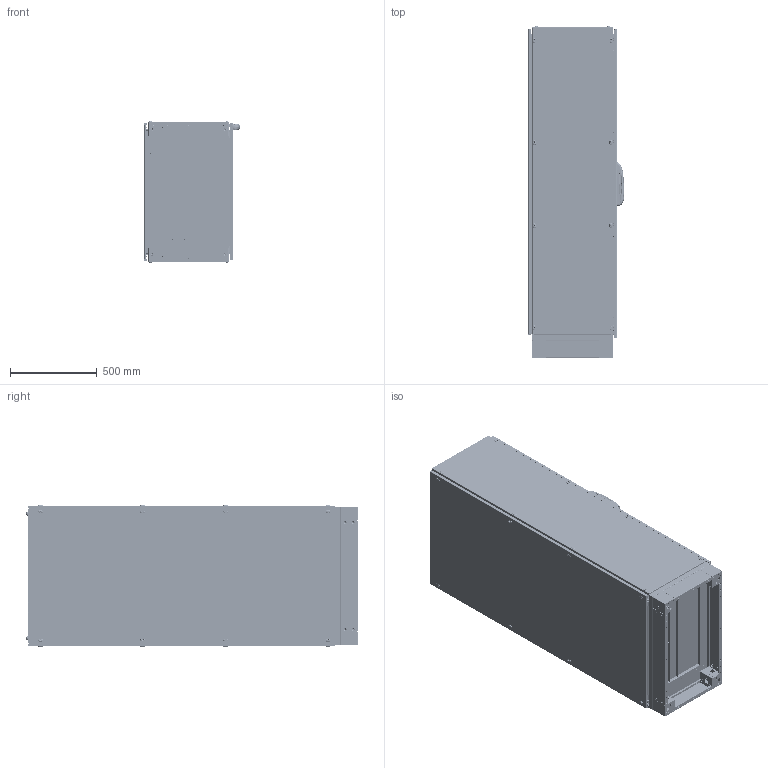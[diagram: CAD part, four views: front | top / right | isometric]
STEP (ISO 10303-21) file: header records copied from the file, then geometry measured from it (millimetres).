
FILE_DESCRIPTION (( 'STEP AP203' ), '1' );
FILE_NAME ('708.185 800x1800x500.STEP', '2020-04-06T15:51:58', ( '' ), ( '' ), 'SwSTEP 2.0', 'SolidWorks 2019', '' );
FILE_SCHEMA (( 'CONFIG_CONTROL_DESIGN' ));
Length unit declared in the file: millimetre
Products named in the file (124): M6 KAFES SOMU2015; M6 HAVÞA PLASTÝK CÝVATA; Montaj PlakAsi aaaaa 3mm_PP 12.0102 800x1800; yan Kapak 09-2014 800 der ust tek hv r3_PP 12.0064 - 1800X500; V2 -2011 DT BAZA KAPAGI ON_PP 12.0046 - 800; 03-taban genislik percinli 04 - 2012 100-120_PP 12.0020 - 800; mp aLT DAYAMA_PP 12.0092 - 500; M8 KAFES SOMUN_m8; pan cross head_am1_B18.6.7M - M5 x 0.8 x 10 Type I Cross Recessed PHMS --10N; MP 18.7631 Tekpan ASSEMBLY 27092017_mekanizmasiz; M8 Somun Kafesi_m8; PB 14.0004 M6 HAVÞA PLASTÝK CÝVATA; TEOS Yeni Kapak Montaj version 2_1800; TEOS-NEO MP Sol Dayama; BOYUNA DELIKLI PROFIL_1800; 708.185 800x1800x500; 03-TABAN SACI U1 04-2012_PP 12.0041 -800-75; BAZA KÖÞES_SOL; Teos-Neo MP Sað Braket Montaj_Standart Pozisyon; yan arka kapak baglantý saci; MP 18.7631 Arka Kapak; flat head screw_am_B18.6.7M - M6 x 1.0 x 20 Type I Cross Recessed FHMS --20N; arka kapi 1,5 mm gecme askili 09-2014 R3_PP 12.0081 800x1800; Teos-Neo MP Durdurucu; kapali dikey profilkenetli_ita oluklu10-aaaaaaaaaaaa-1_800; mentese orta 09-201; Mirror03-KOSE PUNT; BAZA KÖÞES_SAG; TEOS TEK KAPAK REVÝZE_800x1800; on citaVER3 teos26-12_800; TEOS Kilit Çubuk Pimi; ENINE DELIKLI PROFIL_800; TEOS Kilit Üst Çubuk_1800--MP 16.0130; TEOS REAR PANEL_ 703.818 800X1800; V2 BAZA KOSESI2015_100; TEOS V2 BAZA S嵞TEM廆800X500; Teos-Neo MP Sol Braketi; kapali dikey profilkenetli_ita oluklu10-aaaaaaaaaaaa-1_1800; MP 18.7631 yddk_tozkapagi; MP 11.0195 montaj plakasý m8takoz1VER3 NEO26-12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
Assembly tree (384 placements, depth 7):
  708.185 800x1800x500
    TEOS iskelet_800x1800x500
      kapali dikey profilkenetli_ita oluklu10-aaaaaaaaaaaa-1_1800  x4
      kapali dikey profilkenetli_ita oluklu10-aaaaaaaaaaaa-1_500  x4
      kapali dikey profilkenetli_ita oluklu10-aaaaaaaaaaaa-1_800  x4
      L KOSE DESTEKorj1  x8
      kose rondela kabartmaSIZ 10  x15
      kose rondela kabartmaSIZ 12
      MP 11.0140 TEOS ALUMINYUM KOSE APPROVED 16.08.2010  x8
      M5 DÝKEY PROFÝL RONDELA  x16
      percinli taban-vidalý kapak-kose pls yok_701.850-80X50 ALT
        03-taban genislik percinli 04 - 2012 100-120_PP 12.0020 - 800  x2
        03taban derinlik percinli_PP 12.0024 - 500  x2
        03-KOSE PUNT_PP 12.0027
        03-KOSE PUNT
        Mirror03-KOSE PUNT  x2
        TEOS V2 BAZA S嵞TEM廆800X500
          BAZA KÖÞES_SAG
            V2 BAZA KOSESI2015_100
            BAZA SISTEMIV2-6 baza kapaðý201550x40_TEKPAN LOGOLU
            M6 KAFES SOMU2015
              kafes somun kafes
              somu
            M6 KAFES SOMU2015
              kafes somun kafes
              somu
          V2 -2011 DT BAZA KAPAGI ON_PP 12.0046 - 800  x2
          BAZA KÖÞES_SOL
            V2 BAZA KOSESI2015_100
            BAZA SISTEMIV2-6 baza kapaðý201550x40
            M6 KAFES SOMU2015
              kafes somun kafes
              somu
            M6 KAFES SOMU2015
              kafes somun kafes
              somu
          BAZA KÖÞES_SAG
            V2 BAZA KOSESI2015_100
            BAZA SISTEMIV2-6 baza kapaðý201550x40_TEKPAN LOGOLU
            M6 KAFES SOMU2015
              kafes somun kafes
              somu
            M6 KAFES SOMU2015
              kafes somun kafes
              somu
          BAZA KÖÞES_SOL
            V2 BAZA KOSESI2015_100
            BAZA SISTEMIV2-6 baza kapaðý201550x40
            M6 KAFES SOMU2015
              kafes somun kafes
              somu
            M6 KAFES SOMU2015
              kafes somun kafes
              somu
          V3 -2011 DT BAZA KAPAGI yan_PP 12.0050 - 500  x2
          flat head screw_am_B18.6.7M - M6 x 1.0 x 20 Type I Cross Recessed FHMS --20N  x8
        03-TABAN SACI SURGU_PP 12.0031 - 800
        03-TABAN SACI U1 04-2012_PP 12.0041 -800-75
        03-TABAN SACI U1 04-2012_PP 12.0036 -800-200
        mp aLT DAYAMA_PP 12.0092 - 500  x2
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Bounding box: 558.08 x 1917.1 x 818.87 mm (x, y, z)
Volume: 20550117.5 mm3; surface area: 21430249.2 mm2
Topology: 331 solids, 371 shells, 50366 faces, 136878 edges, 86950 vertices
Faces by surface type: plane 32003, cylinder 13444, bspline 2211, torus 1139, cone 960, sphere 609
Entity records: 701516 total; most frequent: CARTESIAN_POINT 294284, ORIENTED_EDGE 82892, DIRECTION 76243, EDGE_CURVE 41446, LINE 27683, VECTOR 27683, VERTEX_POINT 26568, AXIS2_PLACEMENT_3D 24280
